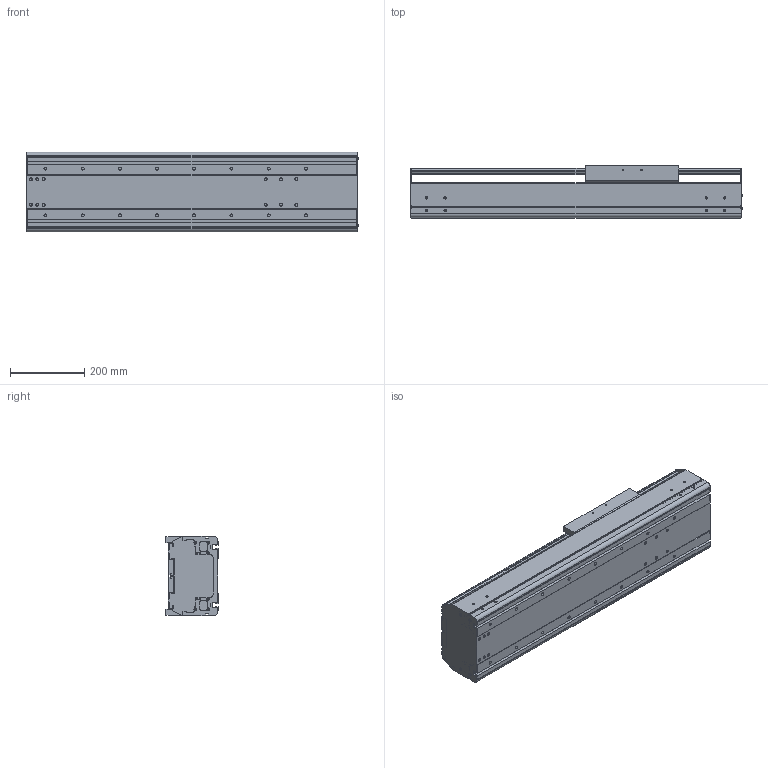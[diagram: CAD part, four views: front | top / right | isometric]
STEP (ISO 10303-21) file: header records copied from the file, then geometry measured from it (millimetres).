
FILE_DESCRIPTION((''),'2;1');
FILE_NAME('BE60J-ST-M_N-40_IGS_PRT','2017-06-18T',(' '),(''),'PRO/ENGINEER BY PARAMETRIC TECHNOLOGY CORPORATION, 2015030','PRO/ENGINEER BY PARAMETRIC TECHNOLOGY CORPORATION, 2015030','');
FILE_SCHEMA(('CONFIG_CONTROL_DESIGN'));
Length unit declared in the file: millimetre
Products named in the file (1): BE60J-ST-M_N-40_IGS_PRT
Bounding box: 892.4 x 140 x 214 mm (x, y, z)
Volume: 7273300.2 mm3; surface area: 1998877.4 mm2
Topology: 2 solids, 120 shells, 1335 faces, 3642 edges, 2430 vertices
Faces by surface type: cylinder 642, plane 567, cone 78, sphere 24, torus 24
Entity records: 43751 total; most frequent: CARTESIAN_POINT 9400, DIRECTION 7266, ORIENTED_EDGE 6776, EDGE_CURVE 3594, AXIS2_PLACEMENT_3D 2686, VERTEX_POINT 2430, VECTOR 1894, LINE 1894
